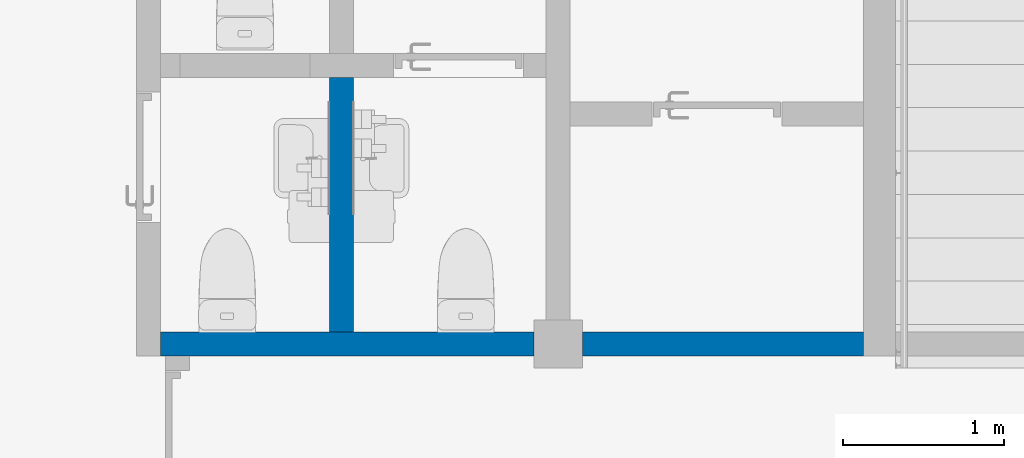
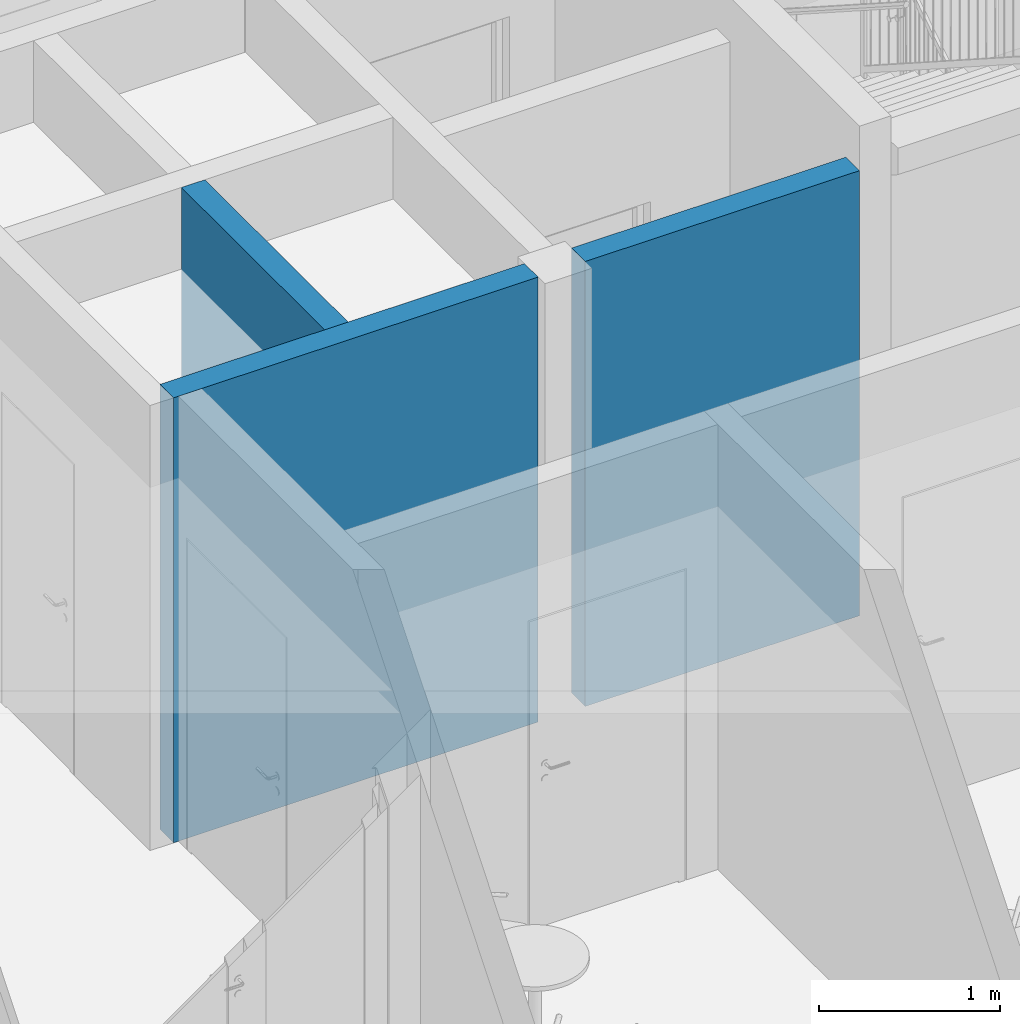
# One storey, part 11 of 58: 2 walls.
"""IFC2X3 building model written with IfcOpenShell, lengths in millimetres."""

from ifc_helpers import new_model, entity, si_unit, converted_unit, derived_unit, direction, frame, frame_2d, origin, origin_2d_with_axis, place, context, subcontext, project, spatial, rectangle, extrude, material, layer, layer_set, layer_usage, type_object, element, save


model = new_model("IFC2X3")

# Units and contexts
model_context = context("Model", 3, precision=0.01, world=origin(), true_north=direction((0.7716245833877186, 0.6360782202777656)))
body_context = subcontext(model_context, "Body", "Model", "MODEL_VIEW")
ifc_project = project(units=[si_unit("LENGTHUNIT", "METRE", prefix="MILLI"), si_unit("AREAUNIT", "SQUARE_METRE"), converted_unit("PLANEANGLEUNIT", "DEGREE", entity("IfcPlaneAngleMeasure", 0.017453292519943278), si_unit("PLANEANGLEUNIT", "RADIAN"), dimensions=[0, 0, 0, 0, 0, 0, 0]), derived_unit("THERMALTRANSMITTANCEUNIT", [(si_unit("MASSUNIT", "GRAM", prefix="KILO"), 1), (si_unit("THERMODYNAMICTEMPERATUREUNIT", "KELVIN"), -1), (si_unit("TIMEUNIT", "SECOND"), -3)])], contexts=[model_context])

# Site, building, storey
site_placement = place(None, origin())
site = spatial("IfcSite", under=ifc_project, at=site_placement, Name="Default", CompositionType="ELEMENT")
building_placement = place(site_placement, origin())
building = spatial("IfcBuilding", under=site, at=building_placement, CompositionType="ELEMENT")
storey_placement = place(building_placement, frame((0.0, 0.0, 31140.0)))
storey = spatial("IfcBuildingStorey", under=building, at=storey_placement, Name="PLAN U1", CompositionType="ELEMENT", Elevation=31140.000000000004)

# Walls
ifc_material = material(Name="Eksist. vegg")
ifc_layer = layer(ifc_material, 150.0)
ifc_layer_set = layer_set([ifc_layer], Name="Basic Wall:240 Eksist. Innervegg 150 mm")
wall_type = type_object("IfcWallType", Name="Basic Wall:240 Eksist. Innervegg 150 mm", PredefinedType="STANDARD", material=ifc_layer_set)
wall_1_placement = place(storey_placement, frame((263442.92444647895, 59315.25555007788, 0.0)))
element("IfcWall", 1, at=wall_1_placement, inside=storey, type_object=wall_type, Name="Basic Wall:240 Eksist. Innervegg 150 mm", ObjectType="Basic Wall:240 Eksist. Innervegg 150 mm", context=body_context, shape_type="SweptSolid", body=[
    extrude(rectangle(XDim=2325.000000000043, YDim=150.00000000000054, at=frame_2d((12.500000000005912, -24.999999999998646), x_axis=(1.0, 0.0))), frame((1150.0, 25.0, 0.0)), (0.0, 0.0, 1.0), 2999.999999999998),
    extrude(rectangle(XDim=1749.9999999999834, YDim=150.00000000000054, at=origin_2d_with_axis()), frame((3500.0, 0.0, 0.0), z_axis=(0.0, 0.0, 1.0), x_axis=(-1.0, 0.0, 0.0)), (0.0, 0.0, 1.0), 2999.999999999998),
])
ifc_layer_usage = layer_usage(ifc_layer_set, "AXIS2", "NEGATIVE", 75.0)
wall_2_placement = place(storey_placement, frame((264567.924446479, 60972.378594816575, 0.0), z_axis=(0.0, 0.0, 1.0), x_axis=(0.0, -1.0, 0.0)))
element("IfcWallStandardCase", 2, at=wall_2_placement, inside=storey, type_object=wall_type, material=ifc_layer_usage, Name="Basic Wall:240 Eksist. Innervegg 150 mm", ObjectType="Basic Wall:240 Eksist. Innervegg 150 mm", context=body_context, shape_type="SweptSolid", body=[
    extrude(rectangle(XDim=1582.12304473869, YDim=150.00000000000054, at=frame_2d((791.061522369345, 0.0), x_axis=(-1.0, 0.0))), origin(), (0.0, 0.0, 1.0), 2999.9999999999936),
])

save(model, "model.ifc")
